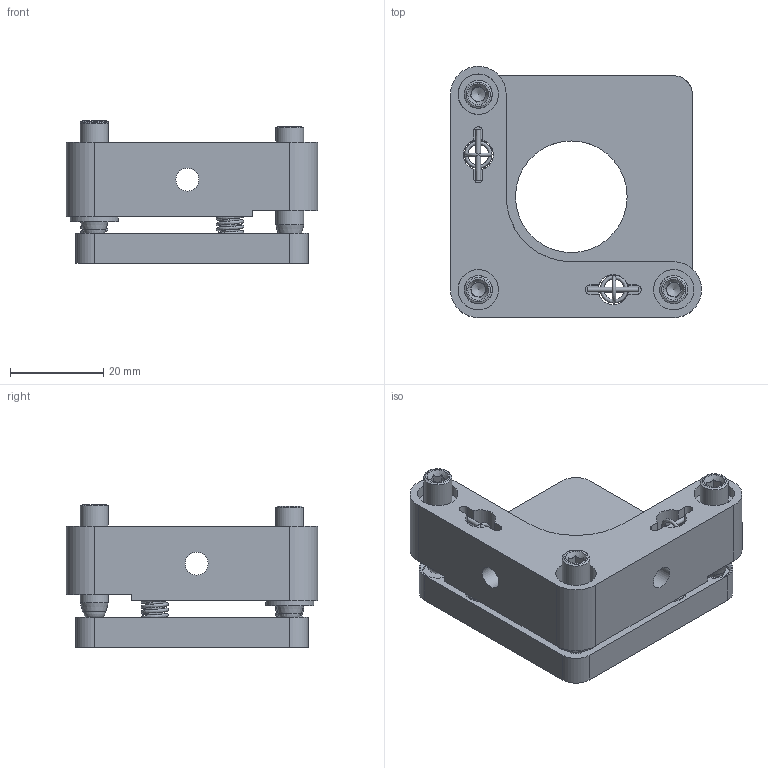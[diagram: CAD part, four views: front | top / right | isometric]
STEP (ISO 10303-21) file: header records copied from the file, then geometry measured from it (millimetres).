
FILE_DESCRIPTION(/* description */ (''),/* implementation_level */ '2;1');
FILE_NAME(/* name */ 'U:\KONSTRUKTORIAI\DOKUMENTACIJA\5\5MBM21-1\step\5MBM21-1-3SH SB INT.stp',/* time_stamp */ '2018-10-03T14:40:22+03:00',/* author */ ('dsgn36'),/* organization */ (''),/* preprocessor_version */ 'ST-DEVELOPER v15.2',/* originating_system */ 'Autodesk Inventor 2014',/* authorisation */ '');
FILE_SCHEMA (('AUTOMOTIVE_DESIGN { 1 0 10303 214 3 1 1 }'));
Length unit declared in the file: millimetre
Products named in the file (2): Part34; Assembly10
Bounding box: 54 x 54 x 30.71 mm (x, y, z)
Volume: 28528.5 mm3; surface area: 15197.1 mm2
Topology: 3 solids, 4 shells, 430 faces, 1113 edges, 730 vertices
Faces by surface type: plane 209, bspline 120, cylinder 64, cone 23, sphere 7, torus 7
Full cylindrical faces by diameter (mm): 0.7 x4, 1 x4, 2 x1, 2.5 x1, 3.1 x3, 3.242 x2, 4.2 x1, 4.917 x2, 6 x5, 6.5 x6, 7.4 x2, 8.7 x3, 10.3 x3, 10.5 x2, 24 x1
Entity records: 16899 total; most frequent: CARTESIAN_POINT 7558, ORIENTED_EDGE 2024, DIRECTION 1568, EDGE_CURVE 1004, VERTEX_POINT 690, EDGE_LOOP 562, LINE 530, VECTOR 530
